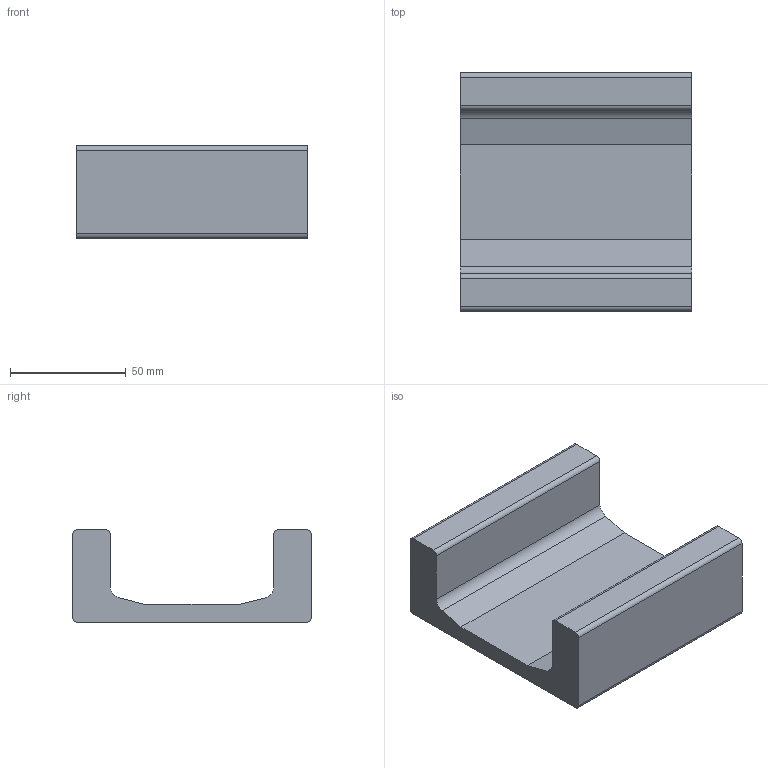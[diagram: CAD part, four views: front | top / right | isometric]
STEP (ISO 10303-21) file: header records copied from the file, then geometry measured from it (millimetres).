
FILE_DESCRIPTION((''),'2;1');
FILE_NAME('K:\Daten\KOMPONENTEN 2D + 3D\KOMPONENTEN Step-Files für extern\_ALFATEC_Führungsprofile UP_IPxxx0700_0800\ALFATEC_UP 070.0700.stp','2013-09-25T13:59:14',('hipp'),(''),'Autodesk Inventor 2013','Autodesk Inventor 2013','');
FILE_SCHEMA(('AUTOMOTIVE_DESIGN { 1 0 10303 214 1 1 1 1 }'));
Length unit declared in the file: millimetre
Products named in the file (1): ALFATEC UP 070.0700 (100mm)
Bounding box: 100 x 103.2 x 40 mm (x, y, z)
Volume: 189931.7 mm3; surface area: 37484.9 mm2
Topology: 1 solids, 1 shells, 20 faces, 54 edges, 36 vertices
Faces by surface type: plane 12, cylinder 8
Entity records: 660 total; most frequent: DIRECTION 112, CARTESIAN_POINT 111, ORIENTED_EDGE 108, EDGE_CURVE 54, VECTOR 38, LINE 38, AXIS2_PLACEMENT_3D 37, VERTEX_POINT 36
